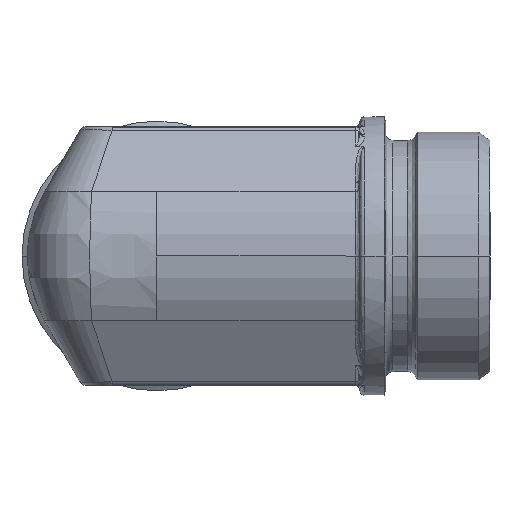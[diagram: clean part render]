
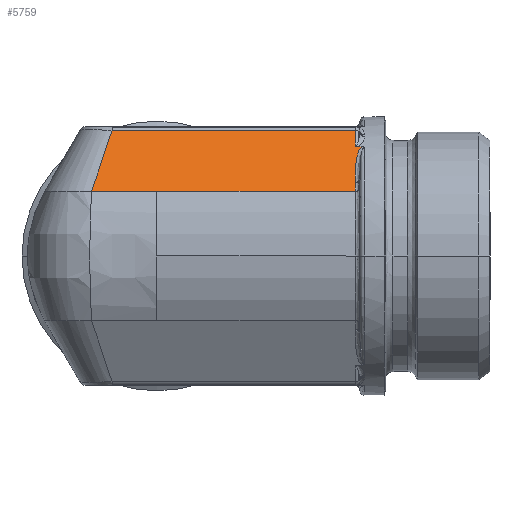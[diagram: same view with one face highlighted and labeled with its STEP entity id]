
A CAD part, left-side view. The second image highlights one B-rep face of the part: STEP entity #5759.
In plain terms, the highlighted planar face has unit normal (-0.866, 0, 0.5) as drawn and (0, -0.5, -0.866) by its records, which use the part's own axes.
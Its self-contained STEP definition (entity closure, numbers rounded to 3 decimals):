
#2330=CARTESIAN_POINT('',(33.6,-12.438,-21.542));
#2331=VERTEX_POINT('',#2330);
#2406=CARTESIAN_POINT('',(-13.114,-24.125,-14.795));
#2407=VERTEX_POINT('',#2406);
#2415=CARTESIAN_POINT('',(33.6,-24.125,-14.795));
#2416=VERTEX_POINT('',#2415);
#2417=CARTESIAN_POINT('',(-13.114,-24.125,-14.795));
#2418=DIRECTION('',(1.0,0.0,0.0));
#2419=VECTOR('',#2418,46.714);
#2420=LINE('',#2417,#2419);
#2421=EDGE_CURVE('',#2407,#2416,#2420,.T.);
#4958=CARTESIAN_POINT('',(33.6,-21.105,-16.538));
#4959=VERTEX_POINT('',#4958);
#4973=CARTESIAN_POINT('',(34.072,-20.958,-16.623));
#4974=VERTEX_POINT('',#4973);
#4975=CARTESIAN_POINT('',(33.6,-21.105,-16.538));
#4976=CARTESIAN_POINT('',(33.6,-21.105,-16.538));
#4977=CARTESIAN_POINT('',(33.601,-21.104,-16.539));
#4978=CARTESIAN_POINT('',(33.628,-21.081,-16.552));
#4979=CARTESIAN_POINT('',(33.656,-21.062,-16.563));
#4980=CARTESIAN_POINT('',(33.72,-21.027,-16.583));
#4981=CARTESIAN_POINT('',(33.754,-21.012,-16.592));
#4982=CARTESIAN_POINT('',(33.871,-20.973,-16.614));
#4983=CARTESIAN_POINT('',(33.967,-20.958,-16.623));
#4984=CARTESIAN_POINT('',(34.072,-20.958,-16.623));
#4985=B_SPLINE_CURVE_WITH_KNOTS('',3,(#4975,#4976,#4977,#4978,#4979,#4980,#4981,#4982,#4983,#4984),.UNSPECIFIED.,.F.,.U.,(4,2,2,2,4),(-0.002,0.0,0.111,0.225,0.49),.UNSPECIFIED.);
#4986=EDGE_CURVE('',#4959,#4974,#4985,.T.);
#5367=CARTESIAN_POINT('',(33.6,-24.125,-14.795));
#5368=DIRECTION('',(0.,0.866,-0.5));
#5369=VECTOR('',#5368,3.487);
#5370=LINE('',#5367,#5369);
#5371=EDGE_CURVE('',#2416,#4959,#5370,.T.);
#5696=CARTESIAN_POINT('',(-4.5,0.,-28.723));
#5697=DIRECTION('',(0.0,-0.5,-0.866));
#5698=DIRECTION('',(-1.0,0.0,0.0));
#5699=AXIS2_PLACEMENT_3D('',#5696,#5697,#5698);
#5700=PLANE('',#5699);
#5701=ORIENTED_EDGE('',*,*,#4986,.F.);
#5702=ORIENTED_EDGE('',*,*,#5371,.F.);
#5703=ORIENTED_EDGE('',*,*,#2421,.F.);
#5704=CARTESIAN_POINT('',(-17.042,-12.438,-21.542));
#5705=VERTEX_POINT('',#5704);
#5706=CARTESIAN_POINT('',(-13.114,-24.125,-14.795));
#5707=DIRECTION('',(-0.28,0.832,-0.48));
#5708=VECTOR('',#5707,14.056);
#5709=LINE('',#5706,#5708);
#5710=EDGE_CURVE('',#2407,#5705,#5709,.T.);
#5711=ORIENTED_EDGE('',*,*,#5710,.T.);
#5712=CARTESIAN_POINT('',(-4.5,-12.438,-21.542));
#5713=VERTEX_POINT('',#5712);
#5714=CARTESIAN_POINT('',(-17.042,-12.438,-21.542));
#5715=DIRECTION('',(1.0,0.0,0.0));
#5716=VECTOR('',#5715,12.542);
#5717=LINE('',#5714,#5716);
#5718=EDGE_CURVE('',#5705,#5713,#5717,.T.);
#5719=ORIENTED_EDGE('',*,*,#5718,.T.);
#5720=CARTESIAN_POINT('',(33.6,-12.438,-21.542));
#5721=DIRECTION('',(-1.0,0.0,0.0));
#5722=VECTOR('',#5721,38.1);
#5723=LINE('',#5720,#5722);
#5724=EDGE_CURVE('',#2331,#5713,#5723,.T.);
#5725=ORIENTED_EDGE('',*,*,#5724,.F.);
#5726=CARTESIAN_POINT('',(33.6,-14.142,-20.559));
#5727=VERTEX_POINT('',#5726);
#5728=CARTESIAN_POINT('',(33.6,-14.142,-20.559));
#5729=DIRECTION('',(0.0,0.866,-0.5));
#5730=VECTOR('',#5729,1.968);
#5731=LINE('',#5728,#5730);
#5732=EDGE_CURVE('',#5727,#2331,#5731,.T.);
#5733=ORIENTED_EDGE('',*,*,#5732,.F.);
#5734=CARTESIAN_POINT('',(34.935,-20.958,-16.623));
#5735=VERTEX_POINT('',#5734);
#5736=CARTESIAN_POINT('',(34.935,-20.958,-16.623));
#5737=CARTESIAN_POINT('',(34.918,-20.947,-16.629));
#5738=CARTESIAN_POINT('',(34.902,-20.936,-16.636));
#5739=CARTESIAN_POINT('',(34.441,-20.601,-16.829));
#5740=CARTESIAN_POINT('',(34.235,-20.088,-17.125));
#5741=CARTESIAN_POINT('',(33.793,-18.731,-17.909));
#5742=CARTESIAN_POINT('',(33.705,-17.814,-18.438));
#5743=CARTESIAN_POINT('',(33.622,-16.338,-19.291));
#5744=CARTESIAN_POINT('',(33.61,-15.772,-19.617));
#5745=CARTESIAN_POINT('',(33.601,-14.85,-20.149));
#5746=CARTESIAN_POINT('',(33.6,-14.496,-20.354));
#5747=CARTESIAN_POINT('',(33.6,-14.142,-20.559));
#5748=B_SPLINE_CURVE_WITH_KNOTS('',3,(#5736,#5737,#5738,#5739,#5740,#5741,#5742,#5743,#5744,#5745,#5746,#5747),.UNSPECIFIED.,.F.,.U.,(4,2,2,2,2,4),(-8.14,-8.078,-6.334,-3.192,-1.228,0.),.UNSPECIFIED.);
#5749=EDGE_CURVE('',#5735,#5727,#5748,.T.);
#5750=ORIENTED_EDGE('',*,*,#5749,.F.);
#5751=CARTESIAN_POINT('',(34.072,-20.958,-16.623));
#5752=DIRECTION('',(1.0,0.,0.));
#5753=VECTOR('',#5752,0.863);
#5754=LINE('',#5751,#5753);
#5755=EDGE_CURVE('',#4974,#5735,#5754,.T.);
#5756=ORIENTED_EDGE('',*,*,#5755,.F.);
#5757=EDGE_LOOP('',(#5701,#5702,#5703,#5711,#5719,#5725,#5733,#5750,#5756));
#5758=FACE_OUTER_BOUND('',#5757,.T.);
#5759=ADVANCED_FACE('',(#5758),#5700,.T.);
